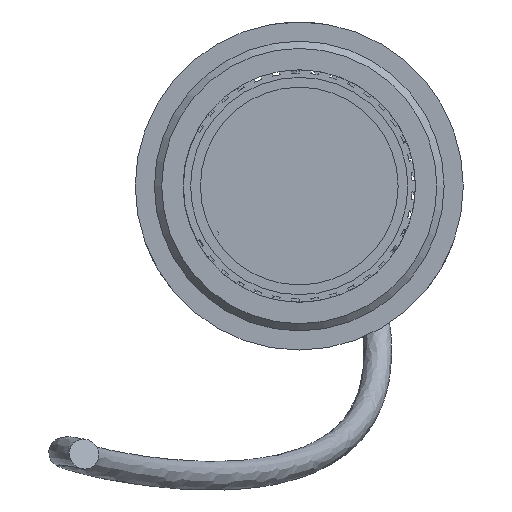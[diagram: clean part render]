
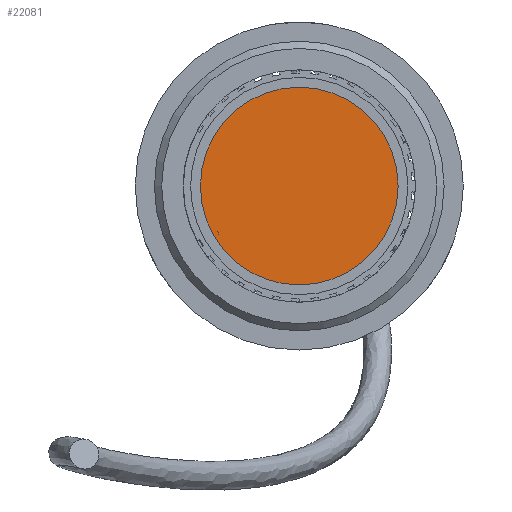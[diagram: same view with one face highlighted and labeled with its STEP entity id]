
A CAD part, front view. The second image highlights one B-rep face of the part: STEP entity #22081.
In plain terms, the highlighted planar face has unit normal (0, -1, 0).
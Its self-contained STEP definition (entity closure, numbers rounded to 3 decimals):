
#967=PLANE('',#24195);
#2240=FACE_OUTER_BOUND('',#3469,.T.);
#3469=EDGE_LOOP('',(#19750,#19751));
#8749=CIRCLE('',#24193,13.65);
#8750=CIRCLE('',#24194,13.65);
#10719=VERTEX_POINT('',#39566);
#10720=VERTEX_POINT('',#39568);
#13769=EDGE_CURVE('',#10720,#10719,#8749,.T.);
#13770=EDGE_CURVE('',#10719,#10720,#8750,.T.);
#19750=ORIENTED_EDGE('',*,*,#13769,.T.);
#19751=ORIENTED_EDGE('',*,*,#13770,.T.);
#22081=ADVANCED_FACE('',(#2240),#967,.T.);
#24193=AXIS2_PLACEMENT_3D('',#39569,#29872,#29873);
#24194=AXIS2_PLACEMENT_3D('',#39570,#29874,#29875);
#24195=AXIS2_PLACEMENT_3D('',#39571,#29876,#29877);
#29872=DIRECTION('center_axis',(0.,-1.,0.));
#29873=DIRECTION('ref_axis',(1.,0.,0.));
#29874=DIRECTION('center_axis',(0.,-1.,0.));
#29875=DIRECTION('ref_axis',(1.,0.,0.));
#29876=DIRECTION('center_axis',(0.,-1.,0.));
#29877=DIRECTION('ref_axis',(0.,0.,-1.));
#39566=CARTESIAN_POINT('',(-13.65,0.,0.));
#39568=CARTESIAN_POINT('',(13.65,0.,0.));
#39569=CARTESIAN_POINT('Origin',(0.,0.,
0.));
#39570=CARTESIAN_POINT('Origin',(0.,0.,
0.));
#39571=CARTESIAN_POINT('Origin',(0.,0.,0.));
